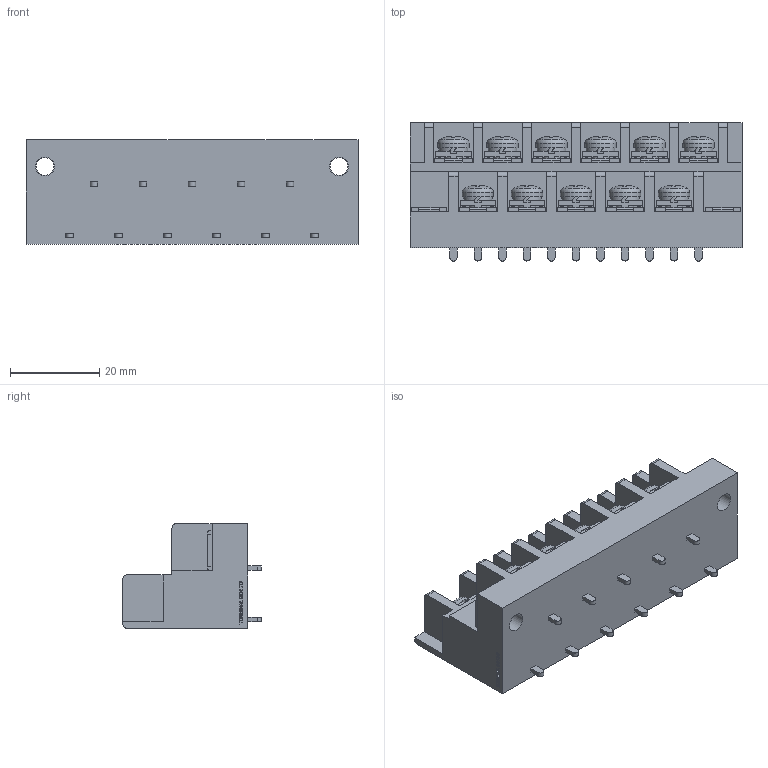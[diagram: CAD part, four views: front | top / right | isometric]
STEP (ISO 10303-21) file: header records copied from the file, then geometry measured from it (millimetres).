
FILE_DESCRIPTION(/* description */ ('Alibre Inc.'),/* implementation_level */ '2;1');
FILE_NAME(/* name */ 'export0',/* time_stamp */ '2016-08-05T14:09:46+09:00',/* author */ (''),/* organization */ (''),/* preprocessor_version */ 'ST-DEVELOPER v14',/* originating_system */ 'Alibre',/* authorisation */ '');
FILE_SCHEMA (('CONFIG_CONTROL_DESIGN'));
Length unit declared in the file: centimetre
Products named in the file (1): ID_1
Bounding box: 74.5 x 31 x 23.5 mm (x, y, z)
Volume: 30791.9 mm3; surface area: 14466.3 mm2
Topology: 1 solids, 110 shells, 2537 faces, 6639 edges, 4379 vertices
Faces by surface type: plane 1951, bspline 410, cylinder 99, cone 44, torus 22, sphere 11
Full cylindrical faces by diameter (mm): 4 x13, 4.2 x2, 7 x11
Entity records: 74203 total; most frequent: CARTESIAN_POINT 17216, ORIENTED_EDGE 13244, DIRECTION 8206, EDGE_CURVE 6578, VECTOR 4985, LINE 4985, VERTEX_POINT 4366, EDGE_LOOP 2746
